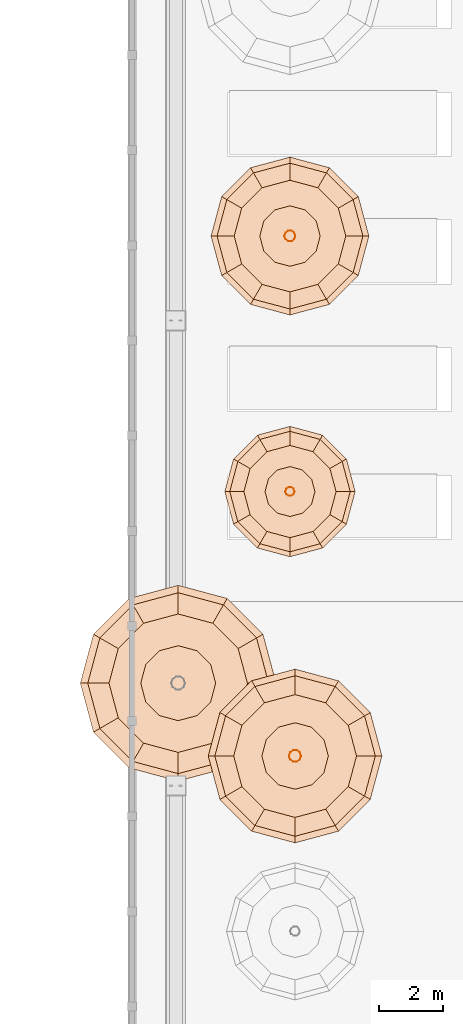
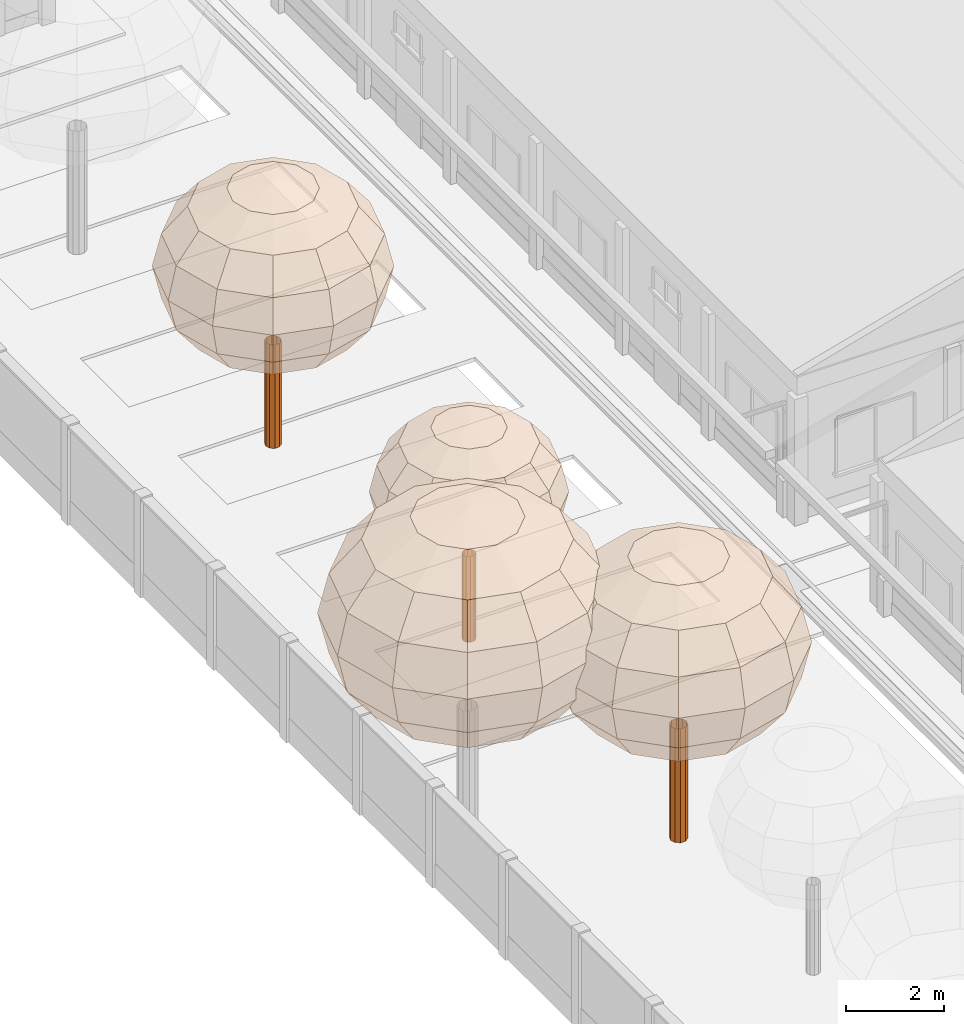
# One storey, part 159 of 177: 7 geographic elements.
"""IFC4 building model written with IfcOpenShell, lengths in metres."""

from ifc_helpers import new_model, si_unit, origin, origin_with_axes, place, context, subcontext, project, spatial, triangles, element, save


model = new_model("IFC4")

# Units and contexts
model_context = context("Model", 3, precision=1e-05, world=origin_with_axes())
body_context = subcontext(model_context, "Body", "Model", "MODEL_VIEW")
ifc_project = project(units=[si_unit("LENGTHUNIT", "METRE"), si_unit("AREAUNIT", "SQUARE_METRE"), si_unit("VOLUMEUNIT", "CUBIC_METRE"), si_unit("PLANEANGLEUNIT", "RADIAN")], contexts=[model_context])

# Site, building, storey
site_placement = place(None, origin_with_axes())
site = spatial("IfcSite", under=ifc_project, at=site_placement, Name="Predio Los Mangos - Morales, San Martín", CompositionType="ELEMENT")
building_placement = place(site_placement, origin())
building = spatial("IfcBuilding", under=site, at=building_placement, Name="Hogar de Refugio Temporal", CompositionType="ELEMENT")
storey_placement = place(building_placement, origin())
storey = spatial("IfcBuildingStorey", under=building, at=storey_placement, Name="NIVEL 1 (NPT +0.00)", CompositionType="ELEMENT", Elevation=0.0)

# Geographic elements
geographic_element_1_placement = place(storey_placement, origin())
element("IfcGeographicElement", 1, at=geographic_element_1_placement, inside=storey, Name="arbol_tronco", ObjectType="Árbol", PredefinedType="NOTDEFINED", context=body_context, shape_type="Tessellation", body=[
    triangles([(6.3492, 43.72, 0.0), (6.3131, 43.8312, 0.0), (6.2185, 43.8999, 0.0), (6.1015, 43.8999, 0.0), (6.0069, 43.8312, 0.0), (5.9708, 43.72, 0.0), (6.0069, 43.6088, 0.0), (6.1015, 43.5401, 0.0), (6.2185, 43.5401, 0.0), (6.3131, 43.6088, 0.0), (6.3492, 43.72, 2.8377), (6.3131, 43.8312, 2.8377), (6.2185, 43.8999, 2.8377), (6.1015, 43.8999, 2.8377), (6.0069, 43.8312, 2.8377), (5.9708, 43.72, 2.8377), (6.0069, 43.6088, 2.8377), (6.1015, 43.5401, 2.8377), (6.2185, 43.5401, 2.8377), (6.3131, 43.6088, 2.8377)], [[1, 2, 12], [2, 3, 13], [3, 4, 14], [4, 5, 15], [5, 6, 16], [6, 7, 17], [7, 8, 18], [8, 9, 19], [9, 10, 20], [10, 1, 11], [1, 12, 11], [2, 13, 12], [3, 14, 13], [4, 15, 14], [5, 16, 15], [6, 17, 16], [7, 18, 17], [8, 19, 18], [9, 20, 19], [10, 11, 20]]),
])
geographic_element_2_placement = place(storey_placement, origin())
element("IfcGeographicElement", 2, at=geographic_element_2_placement, inside=storey, Name="arbol_copa", ObjectType="Árbol", PredefinedType="NOTDEFINED", context=body_context, shape_type="Tessellation", body=[
    triangles([(6.16, 43.72, 7.1889), (6.16, 43.72, 7.1889), (6.16, 43.72, 7.1889), (6.16, 43.72, 7.1889), (6.16, 43.72, 7.1889), (6.16, 43.72, 7.1889), (6.16, 43.72, 7.1889), (6.16, 43.72, 7.1889), (6.16, 43.72, 7.1889), (6.16, 43.72, 7.1889), (6.16, 43.72, 7.1889), (6.16, 43.72, 7.1889), (7.2007, 43.72, 7.0129), (7.0613, 44.2404, 7.0129), (6.6804, 44.6213, 7.0129), (6.16, 44.7607, 7.0129), (5.6396, 44.6213, 7.0129), (5.2587, 44.2404, 7.0129), (5.1193, 43.72, 7.0129), (5.2587, 43.1997, 7.0129), (5.6396, 42.8187, 7.0129), (6.16, 42.6793, 7.0129), (6.6804, 42.8187, 7.0129), (7.0613, 43.1997, 7.0129), (8.083, 43.72, 6.5119), (7.8253, 44.6815, 6.5119), (7.1215, 45.3853, 6.5119), (6.16, 45.643, 6.5119), (5.1985, 45.3853, 6.5119), (4.4947, 44.6815, 6.5119), (4.237, 43.72, 6.5119), (4.4947, 42.7585, 6.5119), (5.1985, 42.0547, 6.5119), (6.16, 41.797, 6.5119), (7.1215, 42.0547, 6.5119), (7.8253, 42.7585, 6.5119), (8.6725, 43.72, 5.7619), (8.3359, 44.9762, 5.7619), (7.4162, 45.8959, 5.7619), (6.16, 46.2325, 5.7619), (4.9038, 45.8959, 5.7619), (3.9841, 44.9762, 5.7619), (3.6475, 43.72, 5.7619), (3.9841, 42.4638, 5.7619), (4.9038, 41.5441, 5.7619), (6.16, 41.2075, 5.7619), (7.4162, 41.5441, 5.7619), (8.3359, 42.4638, 5.7619), (8.8795, 43.72, 4.8773), (8.5151, 45.0797, 4.8773), (7.5197, 46.0751, 4.8773), (6.16, 46.4395, 4.8773), (4.8003, 46.0751, 4.8773), (3.8049, 45.0797, 4.8773), (3.4405, 43.72, 4.8773), (3.8049, 42.3603, 4.8773), (4.8003, 41.3649, 4.8773), (6.16, 41.0005, 4.8773), (7.5197, 41.3649, 4.8773), (8.5151, 42.3603, 4.8773), (8.6725, 43.72, 3.9927), (8.3359, 44.9762, 3.9927), (7.4162, 45.8959, 3.9927), (6.16, 46.2325, 3.9927), (4.9038, 45.8959, 3.9927), (3.9841, 44.9762, 3.9927), (3.6475, 43.72, 3.9927), (3.9841, 42.4638, 3.9927), (4.9038, 41.5441, 3.9927), (6.16, 41.2075, 3.9927), (7.4162, 41.5441, 3.9927), (8.3359, 42.4638, 3.9927), (8.083, 43.72, 3.2428), (7.8253, 44.6815, 3.2428), (7.1215, 45.3853, 3.2428), (6.16, 45.643, 3.2428), (5.1985, 45.3853, 3.2428), (4.4947, 44.6815, 3.2428), (4.237, 43.72, 3.2428), (4.4947, 42.7585, 3.2428), (5.1985, 42.0547, 3.2428), (6.16, 41.797, 3.2428), (7.1215, 42.0547, 3.2428), (7.8253, 42.7585, 3.2428), (7.2007, 43.72, 2.7417), (7.0613, 44.2404, 2.7417), (6.6804, 44.6213, 2.7417), (6.16, 44.7607, 2.7417), (5.6396, 44.6213, 2.7417), (5.2587, 44.2404, 2.7417), (5.1193, 43.72, 2.7417), (5.2587, 43.1997, 2.7417), (5.6396, 42.8187, 2.7417), (6.16, 42.6793, 2.7417), (6.6804, 42.8187, 2.7417), (7.0613, 43.1997, 2.7417), (6.16, 43.72, 2.5658), (6.16, 43.72, 2.5658), (6.16, 43.72, 2.5658), (6.16, 43.72, 2.5658), (6.16, 43.72, 2.5658), (6.16, 43.72, 2.5658), (6.16, 43.72, 2.5658), (6.16, 43.72, 2.5658), (6.16, 43.72, 2.5658), (6.16, 43.72, 2.5658), (6.16, 43.72, 2.5658), (6.16, 43.72, 2.5658)], [[1, 2, 14], [1, 14, 13], [2, 3, 15], [2, 15, 14], [3, 4, 16], [3, 16, 15], [4, 5, 17], [4, 17, 16], [5, 6, 18], [5, 18, 17], [6, 7, 19], [6, 19, 18], [7, 8, 20], [7, 20, 19], [8, 9, 21], [8, 21, 20], [9, 10, 22], [9, 22, 21], [10, 11, 23], [10, 23, 22], [11, 12, 24], [11, 24, 23], [12, 1, 13], [12, 13, 24], [13, 14, 26], [13, 26, 25], [14, 15, 27], [14, 27, 26], [15, 16, 28], [15, 28, 27], [16, 17, 29], [16, 29, 28], [17, 18, 30], [17, 30, 29], [18, 19, 31], [18, 31, 30], [19, 20, 32], [19, 32, 31], [20, 21, 33], [20, 33, 32], [21, 22, 34], [21, 34, 33], [22, 23, 35], [22, 35, 34], [23, 24, 36], [23, 36, 35], [24, 13, 25], [24, 25, 36], [25, 26, 38], [25, 38, 37], [26, 27, 39], [26, 39, 38], [27, 28, 40], [27, 40, 39], [28, 29, 41], [28, 41, 40], [29, 30, 42], [29, 42, 41], [30, 31, 43], [30, 43, 42], [31, 32, 44], [31, 44, 43], [32, 33, 45], [32, 45, 44], [33, 34, 46], [33, 46, 45], [34, 35, 47], [34, 47, 46], [35, 36, 48], [35, 48, 47], [36, 25, 37], [36, 37, 48], [37, 38, 50], [37, 50, 49], [38, 39, 51], [38, 51, 50], [39, 40, 52], [39, 52, 51], [40, 41, 53], [40, 53, 52], [41, 42, 54], [41, 54, 53], [42, 43, 55], [42, 55, 54], [43, 44, 56], [43, 56, 55], [44, 45, 57], [44, 57, 56], [45, 46, 58], [45, 58, 57], [46, 47, 59], [46, 59, 58], [47, 48, 60], [47, 60, 59], [48, 37, 49], [48, 49, 60], [49, 50, 62], [49, 62, 61], [50, 51, 63], [50, 63, 62], [51, 52, 64], [51, 64, 63], [52, 53, 65], [52, 65, 64], [53, 54, 66], [53, 66, 65], [54, 55, 67], [54, 67, 66], [55, 56, 68], [55, 68, 67], [56, 57, 69], [56, 69, 68], [57, 58, 70], [57, 70, 69], [58, 59, 71], [58, 71, 70], [59, 60, 72], [59, 72, 71], [60, 49, 61], [60, 61, 72], [61, 62, 74], [61, 74, 73], [62, 63, 75], [62, 75, 74], [63, 64, 76], [63, 76, 75], [64, 65, 77], [64, 77, 76], [65, 66, 78], [65, 78, 77], [66, 67, 79], [66, 79, 78], [67, 68, 80], [67, 80, 79], [68, 69, 81], [68, 81, 80], [69, 70, 82], [69, 82, 81], [70, 71, 83], [70, 83, 82], [71, 72, 84], [71, 84, 83], [72, 61, 73], [72, 73, 84], [73, 74, 86], [73, 86, 85], [74, 75, 87], [74, 87, 86], [75, 76, 88], [75, 88, 87], [76, 77, 89], [76, 89, 88], [77, 78, 90], [77, 90, 89], [78, 79, 91], [78, 91, 90], [79, 80, 92], [79, 92, 91], [80, 81, 93], [80, 93, 92], [81, 82, 94], [81, 94, 93], [82, 83, 95], [82, 95, 94], [83, 84, 96], [83, 96, 95], [84, 73, 85], [84, 85, 96], [85, 86, 98], [85, 98, 97], [86, 87, 99], [86, 99, 98], [87, 88, 100], [87, 100, 99], [88, 89, 101], [88, 101, 100], [89, 90, 102], [89, 102, 101], [90, 91, 103], [90, 103, 102], [91, 92, 104], [91, 104, 103], [92, 93, 105], [92, 105, 104], [93, 94, 106], [93, 106, 105], [94, 95, 107], [94, 107, 106], [95, 96, 108], [95, 108, 107], [96, 85, 97], [96, 97, 108]]),
])
geographic_element_3_placement = place(storey_placement, origin())
element("IfcGeographicElement", 3, at=geographic_element_3_placement, inside=storey, Name="arbol_tronco", ObjectType="Árbol", PredefinedType="NOTDEFINED", context=body_context, shape_type="Tessellation", body=[
    triangles([(6.142, 52.0, 0.0), (6.1149, 52.0835, 0.0), (6.0439, 52.135, 0.0), (5.9561, 52.135, 0.0), (5.8851, 52.0835, 0.0), (5.858, 52.0, 0.0), (5.8851, 51.9165, 0.0), (5.9561, 51.865, 0.0), (6.0439, 51.865, 0.0), (6.1149, 51.9165, 0.0), (6.142, 52.0, 2.1298), (6.1149, 52.0835, 2.1298), (6.0439, 52.135, 2.1298), (5.9561, 52.135, 2.1298), (5.8851, 52.0835, 2.1298), (5.858, 52.0, 2.1298), (5.8851, 51.9165, 2.1298), (5.9561, 51.865, 2.1298), (6.0439, 51.865, 2.1298), (6.1149, 51.9165, 2.1298)], [[1, 2, 12], [2, 3, 13], [3, 4, 14], [4, 5, 15], [5, 6, 16], [6, 7, 17], [7, 8, 18], [8, 9, 19], [9, 10, 20], [10, 1, 11], [1, 12, 11], [2, 13, 12], [3, 14, 13], [4, 15, 14], [5, 16, 15], [6, 17, 16], [7, 18, 17], [8, 19, 18], [9, 20, 19], [10, 11, 20]]),
])
geographic_element_4_placement = place(storey_placement, origin())
element("IfcGeographicElement", 4, at=geographic_element_4_placement, inside=storey, Name="arbol_copa", ObjectType="Árbol", PredefinedType="NOTDEFINED", context=body_context, shape_type="Tessellation", body=[
    triangles([(6.0, 52.0, 5.3955), (6.0, 52.0, 5.3955), (6.0, 52.0, 5.3955), (6.0, 52.0, 5.3955), (6.0, 52.0, 5.3955), (6.0, 52.0, 5.3955), (6.0, 52.0, 5.3955), (6.0, 52.0, 5.3955), (6.0, 52.0, 5.3955), (6.0, 52.0, 5.3955), (6.0, 52.0, 5.3955), (6.0, 52.0, 5.3955), (6.7811, 52.0, 5.2635), (6.6764, 52.3905, 5.2635), (6.3905, 52.6764, 5.2635), (6.0, 52.7811, 5.2635), (5.6095, 52.6764, 5.2635), (5.3236, 52.3905, 5.2635), (5.2189, 52.0, 5.2635), (5.3236, 51.6095, 5.2635), (5.6095, 51.3236, 5.2635), (6.0, 51.2189, 5.2635), (6.3905, 51.3236, 5.2635), (6.6764, 51.6095, 5.2635), (7.4433, 52.0, 4.8874), (7.2499, 52.7216, 4.8874), (6.7216, 53.2499, 4.8874), (6.0, 53.4433, 4.8874), (5.2784, 53.2499, 4.8874), (4.7501, 52.7216, 4.8874), (4.5567, 52.0, 4.8874), (4.7501, 51.2784, 4.8874), (5.2784, 50.7501, 4.8874), (6.0, 50.5567, 4.8874), (6.7216, 50.7501, 4.8874), (7.2499, 51.2784, 4.8874), (7.8857, 52.0, 4.3245), (7.6331, 52.9429, 4.3245), (6.9429, 53.6331, 4.3245), (6.0, 53.8857, 4.3245), (5.0571, 53.6331, 4.3245), (4.3669, 52.9429, 4.3245), (4.1143, 52.0, 4.3245), (4.3669, 51.0571, 4.3245), (5.0571, 50.3669, 4.3245), (6.0, 50.1143, 4.3245), (6.9429, 50.3669, 4.3245), (7.6331, 51.0571, 4.3245), (8.0411, 52.0, 3.6606), (7.7676, 53.0205, 3.6606), (7.0205, 53.7676, 3.6606), (6.0, 54.0411, 3.6606), (4.9795, 53.7676, 3.6606), (4.2324, 53.0205, 3.6606), (3.9589, 52.0, 3.6606), (4.2324, 50.9795, 3.6606), (4.9795, 50.2324, 3.6606), (6.0, 49.9589, 3.6606), (7.0205, 50.2324, 3.6606), (7.7676, 50.9795, 3.6606), (7.8857, 52.0, 2.9967), (7.6331, 52.9429, 2.9967), (6.9429, 53.6331, 2.9967), (6.0, 53.8857, 2.9967), (5.0571, 53.6331, 2.9967), (4.3669, 52.9429, 2.9967), (4.1143, 52.0, 2.9967), (4.3669, 51.0571, 2.9967), (5.0571, 50.3669, 2.9967), (6.0, 50.1143, 2.9967), (6.9429, 50.3669, 2.9967), (7.6331, 51.0571, 2.9967), (7.4433, 52.0, 2.4338), (7.2499, 52.7216, 2.4338), (6.7216, 53.2499, 2.4338), (6.0, 53.4433, 2.4338), (5.2784, 53.2499, 2.4338), (4.7501, 52.7216, 2.4338), (4.5567, 52.0, 2.4338), (4.7501, 51.2784, 2.4338), (5.2784, 50.7501, 2.4338), (6.0, 50.5567, 2.4338), (6.7216, 50.7501, 2.4338), (7.2499, 51.2784, 2.4338), (6.7811, 52.0, 2.0578), (6.6764, 52.3905, 2.0578), (6.3905, 52.6764, 2.0578), (6.0, 52.7811, 2.0578), (5.6095, 52.6764, 2.0578), (5.3236, 52.3905, 2.0578), (5.2189, 52.0, 2.0578), (5.3236, 51.6095, 2.0578), (5.6095, 51.3236, 2.0578), (6.0, 51.2189, 2.0578), (6.3905, 51.3236, 2.0578), (6.6764, 51.6095, 2.0578), (6.0, 52.0, 1.9257), (6.0, 52.0, 1.9257), (6.0, 52.0, 1.9257), (6.0, 52.0, 1.9257), (6.0, 52.0, 1.9257), (6.0, 52.0, 1.9257), (6.0, 52.0, 1.9257), (6.0, 52.0, 1.9257), (6.0, 52.0, 1.9257), (6.0, 52.0, 1.9257), (6.0, 52.0, 1.9257), (6.0, 52.0, 1.9257)], [[1, 2, 14], [1, 14, 13], [2, 3, 15], [2, 15, 14], [3, 4, 16], [3, 16, 15], [4, 5, 17], [4, 17, 16], [5, 6, 18], [5, 18, 17], [6, 7, 19], [6, 19, 18], [7, 8, 20], [7, 20, 19], [8, 9, 21], [8, 21, 20], [9, 10, 22], [9, 22, 21], [10, 11, 23], [10, 23, 22], [11, 12, 24], [11, 24, 23], [12, 1, 13], [12, 13, 24], [13, 14, 26], [13, 26, 25], [14, 15, 27], [14, 27, 26], [15, 16, 28], [15, 28, 27], [16, 17, 29], [16, 29, 28], [17, 18, 30], [17, 30, 29], [18, 19, 31], [18, 31, 30], [19, 20, 32], [19, 32, 31], [20, 21, 33], [20, 33, 32], [21, 22, 34], [21, 34, 33], [22, 23, 35], [22, 35, 34], [23, 24, 36], [23, 36, 35], [24, 13, 25], [24, 25, 36], [25, 26, 38], [25, 38, 37], [26, 27, 39], [26, 39, 38], [27, 28, 40], [27, 40, 39], [28, 29, 41], [28, 41, 40], [29, 30, 42], [29, 42, 41], [30, 31, 43], [30, 43, 42], [31, 32, 44], [31, 44, 43], [32, 33, 45], [32, 45, 44], [33, 34, 46], [33, 46, 45], [34, 35, 47], [34, 47, 46], [35, 36, 48], [35, 48, 47], [36, 25, 37], [36, 37, 48], [37, 38, 50], [37, 50, 49], [38, 39, 51], [38, 51, 50], [39, 40, 52], [39, 52, 51], [40, 41, 53], [40, 53, 52], [41, 42, 54], [41, 54, 53], [42, 43, 55], [42, 55, 54], [43, 44, 56], [43, 56, 55], [44, 45, 57], [44, 57, 56], [45, 46, 58], [45, 58, 57], [46, 47, 59], [46, 59, 58], [47, 48, 60], [47, 60, 59], [48, 37, 49], [48, 49, 60], [49, 50, 62], [49, 62, 61], [50, 51, 63], [50, 63, 62], [51, 52, 64], [51, 64, 63], [52, 53, 65], [52, 65, 64], [53, 54, 66], [53, 66, 65], [54, 55, 67], [54, 67, 66], [55, 56, 68], [55, 68, 67], [56, 57, 69], [56, 69, 68], [57, 58, 70], [57, 70, 69], [58, 59, 71], [58, 71, 70], [59, 60, 72], [59, 72, 71], [60, 49, 61], [60, 61, 72], [61, 62, 74], [61, 74, 73], [62, 63, 75], [62, 75, 74], [63, 64, 76], [63, 76, 75], [64, 65, 77], [64, 77, 76], [65, 66, 78], [65, 78, 77], [66, 67, 79], [66, 79, 78], [67, 68, 80], [67, 80, 79], [68, 69, 81], [68, 81, 80], [69, 70, 82], [69, 82, 81], [70, 71, 83], [70, 83, 82], [71, 72, 84], [71, 84, 83], [72, 61, 73], [72, 73, 84], [73, 74, 86], [73, 86, 85], [74, 75, 87], [74, 87, 86], [75, 76, 88], [75, 88, 87], [76, 77, 89], [76, 89, 88], [77, 78, 90], [77, 90, 89], [78, 79, 91], [78, 91, 90], [79, 80, 92], [79, 92, 91], [80, 81, 93], [80, 93, 92], [81, 82, 94], [81, 94, 93], [82, 83, 95], [82, 95, 94], [83, 84, 96], [83, 96, 95], [84, 73, 85], [84, 85, 96], [85, 86, 98], [85, 98, 97], [86, 87, 99], [86, 99, 98], [87, 88, 100], [87, 100, 99], [88, 89, 101], [88, 101, 100], [89, 90, 102], [89, 102, 101], [90, 91, 103], [90, 103, 102], [91, 92, 104], [91, 104, 103], [92, 93, 105], [92, 105, 104], [93, 94, 106], [93, 106, 105], [94, 95, 107], [94, 107, 106], [95, 96, 108], [95, 108, 107], [96, 85, 97], [96, 97, 108]]),
])
geographic_element_5_placement = place(storey_placement, origin())
element("IfcGeographicElement", 5, at=geographic_element_5_placement, inside=storey, Name="arbol_tronco", ObjectType="Árbol", PredefinedType="NOTDEFINED", context=body_context, shape_type="Tessellation", body=[
    triangles([(6.1719, 60.0, 0.0), (6.1391, 60.1011, 0.0), (6.0531, 60.1635, 0.0), (5.9469, 60.1635, 0.0), (5.8609, 60.1011, 0.0), (5.8281, 60.0, 0.0), (5.8609, 59.8989, 0.0), (5.9469, 59.8365, 0.0), (6.0531, 59.8365, 0.0), (6.1391, 59.8989, 0.0), (6.1719, 60.0, 2.5788), (6.1391, 60.1011, 2.5788), (6.0531, 60.1635, 2.5788), (5.9469, 60.1635, 2.5788), (5.8609, 60.1011, 2.5788), (5.8281, 60.0, 2.5788), (5.8609, 59.8989, 2.5788), (5.9469, 59.8365, 2.5788), (6.0531, 59.8365, 2.5788), (6.1391, 59.8989, 2.5788)], [[1, 2, 12], [2, 3, 13], [3, 4, 14], [4, 5, 15], [5, 6, 16], [6, 7, 17], [7, 8, 18], [8, 9, 19], [9, 10, 20], [10, 1, 11], [1, 12, 11], [2, 13, 12], [3, 14, 13], [4, 15, 14], [5, 16, 15], [6, 17, 16], [7, 18, 17], [8, 19, 18], [9, 20, 19], [10, 11, 20]]),
])
geographic_element_6_placement = place(storey_placement, origin())
element("IfcGeographicElement", 6, at=geographic_element_6_placement, inside=storey, Name="arbol_copa", ObjectType="Árbol", PredefinedType="NOTDEFINED", context=body_context, shape_type="Tessellation", body=[
    triangles([(6.0, 60.0, 6.5329), (6.0, 60.0, 6.5329), (6.0, 60.0, 6.5329), (6.0, 60.0, 6.5329), (6.0, 60.0, 6.5329), (6.0, 60.0, 6.5329), (6.0, 60.0, 6.5329), (6.0, 60.0, 6.5329), (6.0, 60.0, 6.5329), (6.0, 60.0, 6.5329), (6.0, 60.0, 6.5329), (6.0, 60.0, 6.5329), (6.9457, 60.0, 6.373), (6.819, 60.4729, 6.373), (6.4729, 60.819, 6.373), (6.0, 60.9457, 6.373), (5.5271, 60.819, 6.373), (5.181, 60.4729, 6.373), (5.0543, 60.0, 6.373), (5.181, 59.5271, 6.373), (5.5271, 59.181, 6.373), (6.0, 59.0543, 6.373), (6.4729, 59.181, 6.373), (6.819, 59.5271, 6.373), (7.7475, 60.0, 5.9177), (7.5134, 60.8738, 5.9177), (6.8738, 61.5134, 5.9177), (6.0, 61.7475, 5.9177), (5.1262, 61.5134, 5.9177), (4.4866, 60.8738, 5.9177), (4.2525, 60.0, 5.9177), (4.4866, 59.1262, 5.9177), (5.1262, 58.4866, 5.9177), (6.0, 58.2525, 5.9177), (6.8738, 58.4866, 5.9177), (7.5134, 59.1262, 5.9177), (8.2832, 60.0, 5.2362), (7.9773, 61.1416, 5.2362), (7.1416, 61.9773, 5.2362), (6.0, 62.2832, 5.2362), (4.8584, 61.9773, 5.2362), (4.0227, 61.1416, 5.2362), (3.7168, 60.0, 5.2362), (4.0227, 58.8584, 5.2362), (4.8584, 58.0227, 5.2362), (6.0, 57.7168, 5.2362), (7.1416, 58.0227, 5.2362), (7.9773, 58.8584, 5.2362), (8.4713, 60.0, 4.4323), (8.1402, 61.2357, 4.4323), (7.2357, 62.1402, 4.4323), (6.0, 62.4713, 4.4323), (4.7643, 62.1402, 4.4323), (3.8598, 61.2357, 4.4323), (3.5287, 60.0, 4.4323), (3.8598, 58.7643, 4.4323), (4.7643, 57.8598, 4.4323), (6.0, 57.5287, 4.4323), (7.2357, 57.8598, 4.4323), (8.1402, 58.7643, 4.4323), (8.2832, 60.0, 3.6284), (7.9773, 61.1416, 3.6284), (7.1416, 61.9773, 3.6284), (6.0, 62.2832, 3.6284), (4.8584, 61.9773, 3.6284), (4.0227, 61.1416, 3.6284), (3.7168, 60.0, 3.6284), (4.0227, 58.8584, 3.6284), (4.8584, 58.0227, 3.6284), (6.0, 57.7168, 3.6284), (7.1416, 58.0227, 3.6284), (7.9773, 58.8584, 3.6284), (7.7475, 60.0, 2.9469), (7.5134, 60.8738, 2.9469), (6.8738, 61.5134, 2.9469), (6.0, 61.7475, 2.9469), (5.1262, 61.5134, 2.9469), (4.4866, 60.8738, 2.9469), (4.2525, 60.0, 2.9469), (4.4866, 59.1262, 2.9469), (5.1262, 58.4866, 2.9469), (6.0, 58.2525, 2.9469), (6.8738, 58.4866, 2.9469), (7.5134, 59.1262, 2.9469), (6.9457, 60.0, 2.4916), (6.819, 60.4729, 2.4916), (6.4729, 60.819, 2.4916), (6.0, 60.9457, 2.4916), (5.5271, 60.819, 2.4916), (5.181, 60.4729, 2.4916), (5.0543, 60.0, 2.4916), (5.181, 59.5271, 2.4916), (5.5271, 59.181, 2.4916), (6.0, 59.0543, 2.4916), (6.4729, 59.181, 2.4916), (6.819, 59.5271, 2.4916), (6.0, 60.0, 2.3317), (6.0, 60.0, 2.3317), (6.0, 60.0, 2.3317), (6.0, 60.0, 2.3317), (6.0, 60.0, 2.3317), (6.0, 60.0, 2.3317), (6.0, 60.0, 2.3317), (6.0, 60.0, 2.3317), (6.0, 60.0, 2.3317), (6.0, 60.0, 2.3317), (6.0, 60.0, 2.3317), (6.0, 60.0, 2.3317)], [[1, 2, 14], [1, 14, 13], [2, 3, 15], [2, 15, 14], [3, 4, 16], [3, 16, 15], [4, 5, 17], [4, 17, 16], [5, 6, 18], [5, 18, 17], [6, 7, 19], [6, 19, 18], [7, 8, 20], [7, 20, 19], [8, 9, 21], [8, 21, 20], [9, 10, 22], [9, 22, 21], [10, 11, 23], [10, 23, 22], [11, 12, 24], [11, 24, 23], [12, 1, 13], [12, 13, 24], [13, 14, 26], [13, 26, 25], [14, 15, 27], [14, 27, 26], [15, 16, 28], [15, 28, 27], [16, 17, 29], [16, 29, 28], [17, 18, 30], [17, 30, 29], [18, 19, 31], [18, 31, 30], [19, 20, 32], [19, 32, 31], [20, 21, 33], [20, 33, 32], [21, 22, 34], [21, 34, 33], [22, 23, 35], [22, 35, 34], [23, 24, 36], [23, 36, 35], [24, 13, 25], [24, 25, 36], [25, 26, 38], [25, 38, 37], [26, 27, 39], [26, 39, 38], [27, 28, 40], [27, 40, 39], [28, 29, 41], [28, 41, 40], [29, 30, 42], [29, 42, 41], [30, 31, 43], [30, 43, 42], [31, 32, 44], [31, 44, 43], [32, 33, 45], [32, 45, 44], [33, 34, 46], [33, 46, 45], [34, 35, 47], [34, 47, 46], [35, 36, 48], [35, 48, 47], [36, 25, 37], [36, 37, 48], [37, 38, 50], [37, 50, 49], [38, 39, 51], [38, 51, 50], [39, 40, 52], [39, 52, 51], [40, 41, 53], [40, 53, 52], [41, 42, 54], [41, 54, 53], [42, 43, 55], [42, 55, 54], [43, 44, 56], [43, 56, 55], [44, 45, 57], [44, 57, 56], [45, 46, 58], [45, 58, 57], [46, 47, 59], [46, 59, 58], [47, 48, 60], [47, 60, 59], [48, 37, 49], [48, 49, 60], [49, 50, 62], [49, 62, 61], [50, 51, 63], [50, 63, 62], [51, 52, 64], [51, 64, 63], [52, 53, 65], [52, 65, 64], [53, 54, 66], [53, 66, 65], [54, 55, 67], [54, 67, 66], [55, 56, 68], [55, 68, 67], [56, 57, 69], [56, 69, 68], [57, 58, 70], [57, 70, 69], [58, 59, 71], [58, 71, 70], [59, 60, 72], [59, 72, 71], [60, 49, 61], [60, 61, 72], [61, 62, 74], [61, 74, 73], [62, 63, 75], [62, 75, 74], [63, 64, 76], [63, 76, 75], [64, 65, 77], [64, 77, 76], [65, 66, 78], [65, 78, 77], [66, 67, 79], [66, 79, 78], [67, 68, 80], [67, 80, 79], [68, 69, 81], [68, 81, 80], [69, 70, 82], [69, 82, 81], [70, 71, 83], [70, 83, 82], [71, 72, 84], [71, 84, 83], [72, 61, 73], [72, 73, 84], [73, 74, 86], [73, 86, 85], [74, 75, 87], [74, 87, 86], [75, 76, 88], [75, 88, 87], [76, 77, 89], [76, 89, 88], [77, 78, 90], [77, 90, 89], [78, 79, 91], [78, 91, 90], [79, 80, 92], [79, 92, 91], [80, 81, 93], [80, 93, 92], [81, 82, 94], [81, 94, 93], [82, 83, 95], [82, 95, 94], [83, 84, 96], [83, 96, 95], [84, 73, 85], [84, 85, 96], [85, 86, 98], [85, 98, 97], [86, 87, 99], [86, 99, 98], [87, 88, 100], [87, 100, 99], [88, 89, 101], [88, 101, 100], [89, 90, 102], [89, 102, 101], [90, 91, 103], [90, 103, 102], [91, 92, 104], [91, 104, 103], [92, 93, 105], [92, 105, 104], [93, 94, 106], [93, 106, 105], [94, 95, 107], [94, 107, 106], [95, 96, 108], [95, 108, 107], [96, 85, 97], [96, 97, 108]]),
])
geographic_element_7_placement = place(storey_placement, origin())
element("IfcGeographicElement", 7, at=geographic_element_7_placement, inside=storey, Name="arbol_copa", ObjectType="Árbol", PredefinedType="NOTDEFINED", context=body_context, shape_type="Tessellation", body=[
    triangles([(2.5, 46.0, 8.102), (2.5, 46.0, 8.102), (2.5, 46.0, 8.102), (2.5, 46.0, 8.102), (2.5, 46.0, 8.102), (2.5, 46.0, 8.102), (2.5, 46.0, 8.102), (2.5, 46.0, 8.102), (2.5, 46.0, 8.102), (2.5, 46.0, 8.102), (2.5, 46.0, 8.102), (2.5, 46.0, 8.102), (3.6729, 46.0, 7.9037), (3.5158, 46.5864, 7.9037), (3.0864, 47.0158, 7.9037), (2.5, 47.1729, 7.9037), (1.9136, 47.0158, 7.9037), (1.4842, 46.5864, 7.9037), (1.3271, 46.0, 7.9037), (1.4842, 45.4136, 7.9037), (1.9136, 44.9842, 7.9037), (2.5, 44.8271, 7.9037), (3.0864, 44.9842, 7.9037), (3.5158, 45.4136, 7.9037), (4.6672, 46.0, 7.339), (4.3769, 47.0836, 7.339), (3.5836, 47.8769, 7.339), (2.5, 48.1672, 7.339), (1.4164, 47.8769, 7.339), (0.6231, 47.0836, 7.339), (0.3328, 46.0, 7.339), (0.6231, 44.9164, 7.339), (1.4164, 44.1231, 7.339), (2.5, 43.8328, 7.339), (3.5836, 44.1231, 7.339), (4.3769, 44.9164, 7.339), (5.3316, 46.0, 6.4938), (4.9522, 47.4158, 6.4938), (3.9158, 48.4522, 6.4938), (2.5, 48.8316, 6.4938), (1.0842, 48.4522, 6.4938), (0.0478, 47.4158, 6.4938), (-0.3316, 46.0, 6.4938), (0.0478, 44.5842, 6.4938), (1.0842, 43.5478, 6.4938), (2.5, 43.1684, 6.4938), (3.9158, 43.5478, 6.4938), (4.9522, 44.5842, 6.4938), (5.5649, 46.0, 5.4968), (5.1543, 47.5325, 5.4968), (4.0325, 48.6543, 5.4968), (2.5, 49.0649, 5.4968), (0.9675, 48.6543, 5.4968), (-0.1543, 47.5325, 5.4968), (-0.5649, 46.0, 5.4968), (-0.1543, 44.4675, 5.4968), (0.9675, 43.3457, 5.4968), (2.5, 42.9351, 5.4968), (4.0325, 43.3457, 5.4968), (5.1543, 44.4675, 5.4968), (5.3316, 46.0, 4.4999), (4.9522, 47.4158, 4.4999), (3.9158, 48.4522, 4.4999), (2.5, 48.8316, 4.4999), (1.0842, 48.4522, 4.4999), (0.0478, 47.4158, 4.4999), (-0.3316, 46.0, 4.4999), (0.0478, 44.5842, 4.4999), (1.0842, 43.5478, 4.4999), (2.5, 43.1684, 4.4999), (3.9158, 43.5478, 4.4999), (4.9522, 44.5842, 4.4999), (4.6672, 46.0, 3.6547), (4.3769, 47.0836, 3.6547), (3.5836, 47.8769, 3.6547), (2.5, 48.1672, 3.6547), (1.4164, 47.8769, 3.6547), (0.6231, 47.0836, 3.6547), (0.3328, 46.0, 3.6547), (0.6231, 44.9164, 3.6547), (1.4164, 44.1231, 3.6547), (2.5, 43.8328, 3.6547), (3.5836, 44.1231, 3.6547), (4.3769, 44.9164, 3.6547), (3.6729, 46.0, 3.09), (3.5158, 46.5864, 3.09), (3.0864, 47.0158, 3.09), (2.5, 47.1729, 3.09), (1.9136, 47.0158, 3.09), (1.4842, 46.5864, 3.09), (1.3271, 46.0, 3.09), (1.4842, 45.4136, 3.09), (1.9136, 44.9842, 3.09), (2.5, 44.8271, 3.09), (3.0864, 44.9842, 3.09), (3.5158, 45.4136, 3.09), (2.5, 46.0, 2.8917), (2.5, 46.0, 2.8917), (2.5, 46.0, 2.8917), (2.5, 46.0, 2.8917), (2.5, 46.0, 2.8917), (2.5, 46.0, 2.8917), (2.5, 46.0, 2.8917), (2.5, 46.0, 2.8917), (2.5, 46.0, 2.8917), (2.5, 46.0, 2.8917), (2.5, 46.0, 2.8917), (2.5, 46.0, 2.8917)], [[1, 2, 14], [1, 14, 13], [2, 3, 15], [2, 15, 14], [3, 4, 16], [3, 16, 15], [4, 5, 17], [4, 17, 16], [5, 6, 18], [5, 18, 17], [6, 7, 19], [6, 19, 18], [7, 8, 20], [7, 20, 19], [8, 9, 21], [8, 21, 20], [9, 10, 22], [9, 22, 21], [10, 11, 23], [10, 23, 22], [11, 12, 24], [11, 24, 23], [12, 1, 13], [12, 13, 24], [13, 14, 26], [13, 26, 25], [14, 15, 27], [14, 27, 26], [15, 16, 28], [15, 28, 27], [16, 17, 29], [16, 29, 28], [17, 18, 30], [17, 30, 29], [18, 19, 31], [18, 31, 30], [19, 20, 32], [19, 32, 31], [20, 21, 33], [20, 33, 32], [21, 22, 34], [21, 34, 33], [22, 23, 35], [22, 35, 34], [23, 24, 36], [23, 36, 35], [24, 13, 25], [24, 25, 36], [25, 26, 38], [25, 38, 37], [26, 27, 39], [26, 39, 38], [27, 28, 40], [27, 40, 39], [28, 29, 41], [28, 41, 40], [29, 30, 42], [29, 42, 41], [30, 31, 43], [30, 43, 42], [31, 32, 44], [31, 44, 43], [32, 33, 45], [32, 45, 44], [33, 34, 46], [33, 46, 45], [34, 35, 47], [34, 47, 46], [35, 36, 48], [35, 48, 47], [36, 25, 37], [36, 37, 48], [37, 38, 50], [37, 50, 49], [38, 39, 51], [38, 51, 50], [39, 40, 52], [39, 52, 51], [40, 41, 53], [40, 53, 52], [41, 42, 54], [41, 54, 53], [42, 43, 55], [42, 55, 54], [43, 44, 56], [43, 56, 55], [44, 45, 57], [44, 57, 56], [45, 46, 58], [45, 58, 57], [46, 47, 59], [46, 59, 58], [47, 48, 60], [47, 60, 59], [48, 37, 49], [48, 49, 60], [49, 50, 62], [49, 62, 61], [50, 51, 63], [50, 63, 62], [51, 52, 64], [51, 64, 63], [52, 53, 65], [52, 65, 64], [53, 54, 66], [53, 66, 65], [54, 55, 67], [54, 67, 66], [55, 56, 68], [55, 68, 67], [56, 57, 69], [56, 69, 68], [57, 58, 70], [57, 70, 69], [58, 59, 71], [58, 71, 70], [59, 60, 72], [59, 72, 71], [60, 49, 61], [60, 61, 72], [61, 62, 74], [61, 74, 73], [62, 63, 75], [62, 75, 74], [63, 64, 76], [63, 76, 75], [64, 65, 77], [64, 77, 76], [65, 66, 78], [65, 78, 77], [66, 67, 79], [66, 79, 78], [67, 68, 80], [67, 80, 79], [68, 69, 81], [68, 81, 80], [69, 70, 82], [69, 82, 81], [70, 71, 83], [70, 83, 82], [71, 72, 84], [71, 84, 83], [72, 61, 73], [72, 73, 84], [73, 74, 86], [73, 86, 85], [74, 75, 87], [74, 87, 86], [75, 76, 88], [75, 88, 87], [76, 77, 89], [76, 89, 88], [77, 78, 90], [77, 90, 89], [78, 79, 91], [78, 91, 90], [79, 80, 92], [79, 92, 91], [80, 81, 93], [80, 93, 92], [81, 82, 94], [81, 94, 93], [82, 83, 95], [82, 95, 94], [83, 84, 96], [83, 96, 95], [84, 73, 85], [84, 85, 96], [85, 86, 98], [85, 98, 97], [86, 87, 99], [86, 99, 98], [87, 88, 100], [87, 100, 99], [88, 89, 101], [88, 101, 100], [89, 90, 102], [89, 102, 101], [90, 91, 103], [90, 103, 102], [91, 92, 104], [91, 104, 103], [92, 93, 105], [92, 105, 104], [93, 94, 106], [93, 106, 105], [94, 95, 107], [94, 107, 106], [95, 96, 108], [95, 108, 107], [96, 85, 97], [96, 97, 108]]),
])

save(model, "model.ifc")
